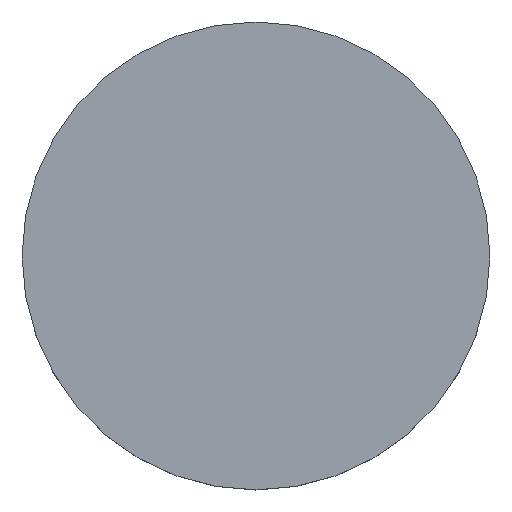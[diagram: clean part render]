
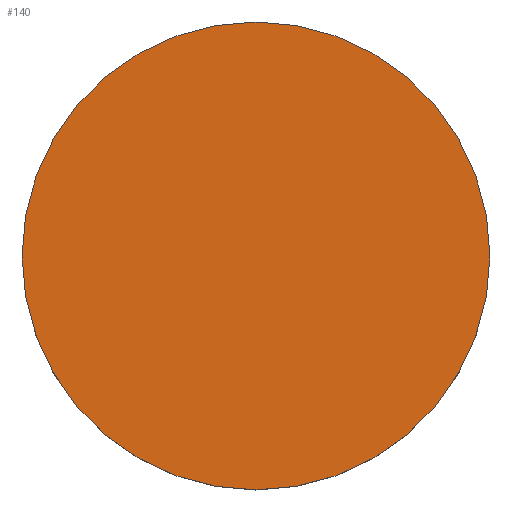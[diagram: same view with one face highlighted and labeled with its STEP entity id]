
A CAD part, top view. The second image highlights one B-rep face of the part: STEP entity #140.
In plain terms, the highlighted planar face has unit normal (0, 0, 1).
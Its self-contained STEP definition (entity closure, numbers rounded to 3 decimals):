
#24 = VERTEX_POINT('',#25);
#25 = CARTESIAN_POINT('',(1.9,0.,4.85));
#32 = CYLINDRICAL_SURFACE('',#33,1.9);
#33 = AXIS2_PLACEMENT_3D('',#34,#35,#36);
#34 = CARTESIAN_POINT('',(0.,0.,4.3));
#35 = DIRECTION('',(-0.,-0.,-1.));
#36 = DIRECTION('',(1.,0.,0.));
#51 = EDGE_CURVE('',#24,#24,#52,.T.);
#52 = SURFACE_CURVE('',#53,(#58,#65),.PCURVE_S1.);
#53 = CIRCLE('',#54,1.9);
#54 = AXIS2_PLACEMENT_3D('',#55,#56,#57);
#55 = CARTESIAN_POINT('',(0.,0.,4.85));
#56 = DIRECTION('',(0.,0.,1.));
#57 = DIRECTION('',(1.,0.,0.));
#58 = PCURVE('',#32,#59);
#59 = DEFINITIONAL_REPRESENTATION('',(#60),#64);
#60 = LINE('',#61,#62);
#61 = CARTESIAN_POINT('',(-0.,-0.55));
#62 = VECTOR('',#63,1.);
#63 = DIRECTION('',(-1.,0.));
#64 = ( GEOMETRIC_REPRESENTATION_CONTEXT(2) 
PARAMETRIC_REPRESENTATION_CONTEXT() REPRESENTATION_CONTEXT('2D SPACE',''
  ) );
#65 = PCURVE('',#66,#71);
#66 = PLANE('',#67);
#67 = AXIS2_PLACEMENT_3D('',#68,#69,#70);
#68 = CARTESIAN_POINT('',(0.,0.,4.85));
#69 = DIRECTION('',(0.,0.,1.));
#70 = DIRECTION('',(1.,0.,-0.));
#71 = DEFINITIONAL_REPRESENTATION('',(#72),#76);
#72 = CIRCLE('',#73,1.9);
#73 = AXIS2_PLACEMENT_2D('',#74,#75);
#74 = CARTESIAN_POINT('',(0.,0.));
#75 = DIRECTION('',(1.,0.));
#76 = ( GEOMETRIC_REPRESENTATION_CONTEXT(2) 
PARAMETRIC_REPRESENTATION_CONTEXT() REPRESENTATION_CONTEXT('2D SPACE',''
  ) );
#140 = ADVANCED_FACE('',(#141),#66,.T.);
#141 = FACE_BOUND('',#142,.T.);
#142 = EDGE_LOOP('',(#143));
#143 = ORIENTED_EDGE('',*,*,#51,.T.);
